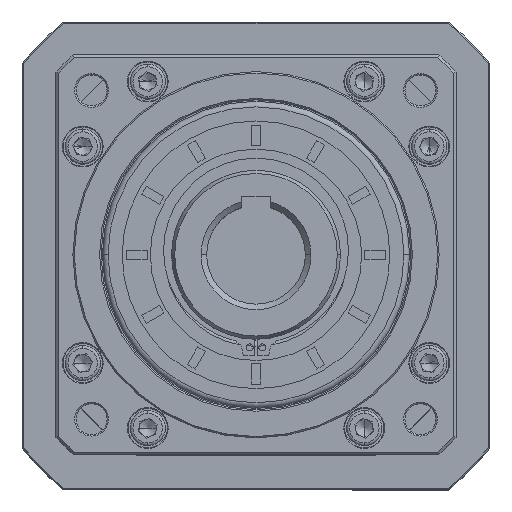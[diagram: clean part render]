
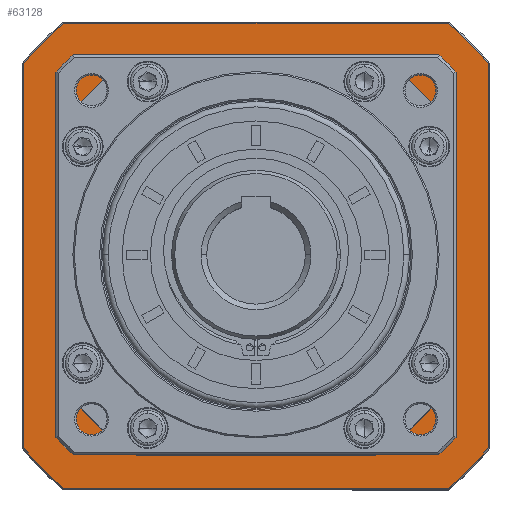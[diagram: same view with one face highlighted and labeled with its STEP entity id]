
A CAD part, top view. The second image highlights one B-rep face of the part: STEP entity #63128.
In plain terms, the highlighted planar face has unit normal (0, 0, 1).
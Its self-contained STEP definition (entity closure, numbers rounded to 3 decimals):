
#27 = CARTESIAN_POINT ( 'NONE',  ( 109.692, 76.653, 111.828 ) ) ;
#440 = EDGE_CURVE ( 'NONE', #15516, #45187, #11788, .T. ) ;
#2733 = EDGE_CURVE ( 'NONE', #18663, #77186, #50569, .T. ) ;
#6095 = CIRCLE ( 'NONE', #14025, 107. ) ;
#8090 = CARTESIAN_POINT ( 'NONE',  ( 109.692, 76.653, 111.828 ) ) ;
#8672 = DIRECTION ( 'NONE',  ( 1., 0., 0. ) ) ;
#9016 = DIRECTION ( 'NONE',  ( -1., 0., 0. ) ) ;
#10199 = VECTOR ( 'NONE', #99743, 1000. ) ;
#10563 = EDGE_CURVE ( 'NONE', #45187, #51152, #6095, .T. ) ;
#11576 = VECTOR ( 'NONE', #79521, 1000. ) ;
#11788 = LINE ( 'NONE', #88745, #84531 ) ;
#12332 = CARTESIAN_POINT ( 'NONE',  ( 109.692, 76.653, 111.828 ) ) ;
#12526 = AXIS2_PLACEMENT_3D ( 'NONE', #54204, #98380, #70638 ) ;
#12860 = VERTEX_POINT ( 'NONE', #45294 ) ;
#14025 = AXIS2_PLACEMENT_3D ( 'NONE', #12332, #74923, #73778 ) ;
#15516 = VERTEX_POINT ( 'NONE', #48514 ) ;
#15603 = ORIENTED_EDGE ( 'NONE', *, *, #29054, .F. ) ;
#15920 = FACE_OUTER_BOUND ( 'NONE', #93796, .T. ) ;
#15960 = DIRECTION ( 'NONE',  ( 0., 1., 0. ) ) ;
#17782 = ORIENTED_EDGE ( 'NONE', *, *, #44818, .F. ) ;
#17938 = CARTESIAN_POINT ( 'NONE',  ( 192.192, 76.653, 111.828 ) ) ;
#18333 = DIRECTION ( 'NONE',  ( 0., -1., 0. ) ) ;
#18382 = CARTESIAN_POINT ( 'NONE',  ( 151.57, 147.153, 111.828 ) ) ;
#18557 = CARTESIAN_POINT ( 'NONE',  ( 180.192, 118.53, 111.828 ) ) ;
#18663 = VERTEX_POINT ( 'NONE', #107964 ) ;
#22713 = CARTESIAN_POINT ( 'NONE',  ( 177.83, 159.153, 111.828 ) ) ;
#23760 = ORIENTED_EDGE ( 'NONE', *, *, #107310, .F. ) ;
#26359 = PLANE ( 'NONE',  #31899 ) ;
#27369 = CARTESIAN_POINT ( 'NONE',  ( 180.692, 147.153, 111.828 ) ) ;
#28157 = CIRCLE ( 'NONE', #64227, 107. ) ;
#29054 = EDGE_CURVE ( 'NONE', #101019, #113694, #88426, .T. ) ;
#29831 = CARTESIAN_POINT ( 'NONE',  ( 27.192, 144.79, 111.828 ) ) ;
#30671 = VERTEX_POINT ( 'NONE', #44216 ) ;
#31537 = AXIS2_PLACEMENT_3D ( 'NONE', #42404, #95561, #32603 ) ;
#31899 = AXIS2_PLACEMENT_3D ( 'NONE', #42809, #35387, #43987 ) ;
#32603 = DIRECTION ( 'NONE',  ( 1., 0., 0. ) ) ;
#32965 = CARTESIAN_POINT ( 'NONE',  ( 109.692, 159.153, 111.828 ) ) ;
#33233 = EDGE_CURVE ( 'NONE', #73126, #12860, #36969, .T. ) ;
#35048 = CIRCLE ( 'NONE', #106531, 107. ) ;
#35380 = LINE ( 'NONE', #32965, #11576 ) ;
#35387 = DIRECTION ( 'NONE',  ( 0., 0., -1. ) ) ;
#35821 = DIRECTION ( 'NONE',  ( 1., 0., 0. ) ) ;
#36019 = DIRECTION ( 'NONE',  ( 0., 0., -1. ) ) ;
#36969 = CIRCLE ( 'NONE', #87265, 82. ) ;
#37929 = DIRECTION ( 'NONE',  ( -1., 0., 0. ) ) ;
#38126 = ORIENTED_EDGE ( 'NONE', *, *, #102510, .F. ) ;
#39744 = CIRCLE ( 'NONE', #77344, 82. ) ;
#39826 = CARTESIAN_POINT ( 'NONE',  ( 39.192, 34.775, 111.828 ) ) ;
#40206 = CARTESIAN_POINT ( 'NONE',  ( 180.692, 6.153, 111.828 ) ) ;
#40538 = CARTESIAN_POINT ( 'NONE',  ( 41.554, -5.847, 111.828 ) ) ;
#40999 = CARTESIAN_POINT ( 'NONE',  ( 109.692, 76.653, 111.828 ) ) ;
#41868 = LINE ( 'NONE', #65811, #66964 ) ;
#42030 = CARTESIAN_POINT ( 'NONE',  ( 67.814, 147.153, 111.828 ) ) ;
#42290 = VERTEX_POINT ( 'NONE', #112498 ) ;
#42404 = CARTESIAN_POINT ( 'NONE',  ( 109.692, 76.653, 111.828 ) ) ;
#42809 = CARTESIAN_POINT ( 'NONE',  ( 109.692, 76.653, 111.828 ) ) ;
#43987 = DIRECTION ( 'NONE',  ( -1., 0., 0. ) ) ;
#44216 = CARTESIAN_POINT ( 'NONE',  ( 177.83, -5.847, 111.828 ) ) ;
#44818 = EDGE_CURVE ( 'NONE', #77186, #30671, #28157, .T. ) ;
#45187 = VERTEX_POINT ( 'NONE', #29831 ) ;
#45294 = CARTESIAN_POINT ( 'NONE',  ( 39.192, 118.53, 111.828 ) ) ;
#47043 = CARTESIAN_POINT ( 'NONE',  ( 192.192, 8.515, 111.828 ) ) ;
#48242 = ORIENTED_EDGE ( 'NONE', *, *, #72829, .F. ) ;
#48514 = CARTESIAN_POINT ( 'NONE',  ( 27.192, 8.515, 111.828 ) ) ;
#49441 = AXIS2_PLACEMENT_3D ( 'NONE', #40999, #76593, #49971 ) ;
#49798 = ORIENTED_EDGE ( 'NONE', *, *, #440, .F. ) ;
#49971 = DIRECTION ( 'NONE',  ( -1., 0., 0. ) ) ;
#50554 = ORIENTED_EDGE ( 'NONE', *, *, #2733, .F. ) ;
#50569 = LINE ( 'NONE', #17938, #85598 ) ;
#51152 = VERTEX_POINT ( 'NONE', #71561 ) ;
#52604 = EDGE_CURVE ( 'NONE', #51152, #114512, #35380, .T. ) ;
#53953 = ORIENTED_EDGE ( 'NONE', *, *, #52604, .F. ) ;
#54204 = CARTESIAN_POINT ( 'NONE',  ( 109.692, 76.653, 111.828 ) ) ;
#55308 = CARTESIAN_POINT ( 'NONE',  ( 67.814, 6.153, 111.828 ) ) ;
#56486 = CIRCLE ( 'NONE', #49441, 107. ) ;
#59310 = CIRCLE ( 'NONE', #31537, 82. ) ;
#59467 = VERTEX_POINT ( 'NONE', #107722 ) ;
#59707 = ORIENTED_EDGE ( 'NONE', *, *, #77932, .F. ) ;
#61053 = ORIENTED_EDGE ( 'NONE', *, *, #33233, .F. ) ;
#63128 = ADVANCED_FACE ( 'NONE', ( #15920, #99883 ), #26359, .F. ) ;
#63746 = EDGE_CURVE ( 'NONE', #59467, #101019, #71809, .T. ) ;
#64227 = AXIS2_PLACEMENT_3D ( 'NONE', #27, #36019, #9016 ) ;
#65568 = LINE ( 'NONE', #105631, #88078 ) ;
#65811 = CARTESIAN_POINT ( 'NONE',  ( 39.192, 5.653, 111.828 ) ) ;
#66964 = VECTOR ( 'NONE', #102549, 1000. ) ;
#70471 = DIRECTION ( 'NONE',  ( -1., 0., 0. ) ) ;
#70492 = CARTESIAN_POINT ( 'NONE',  ( 109.692, 76.653, 111.828 ) ) ;
#70638 = DIRECTION ( 'NONE',  ( 0., -1., 0. ) ) ;
#71228 = ORIENTED_EDGE ( 'NONE', *, *, #75263, .F. ) ;
#71561 = CARTESIAN_POINT ( 'NONE',  ( 41.554, 159.153, 111.828 ) ) ;
#71653 = ORIENTED_EDGE ( 'NONE', *, *, #63746, .F. ) ;
#71809 = LINE ( 'NONE', #91160, #10199 ) ;
#72010 = DIRECTION ( 'NONE',  ( 0., 0., -1. ) ) ;
#72829 = EDGE_CURVE ( 'NONE', #77909, #105321, #39744, .T. ) ;
#73113 = EDGE_CURVE ( 'NONE', #42290, #59467, #59310, .T. ) ;
#73126 = VERTEX_POINT ( 'NONE', #42030 ) ;
#73778 = DIRECTION ( 'NONE',  ( -1., 0., 0. ) ) ;
#74923 = DIRECTION ( 'NONE',  ( 0., 0., -1. ) ) ;
#75263 = EDGE_CURVE ( 'NONE', #12860, #77909, #41868, .T. ) ;
#76593 = DIRECTION ( 'NONE',  ( 0., 0., -1. ) ) ;
#77186 = VERTEX_POINT ( 'NONE', #47043 ) ;
#77344 = AXIS2_PLACEMENT_3D ( 'NONE', #8090, #97625, #35821 ) ;
#77909 = VERTEX_POINT ( 'NONE', #39826 ) ;
#77932 = EDGE_CURVE ( 'NONE', #105321, #42290, #99387, .T. ) ;
#79521 = DIRECTION ( 'NONE',  ( 1., 0., 0. ) ) ;
#79893 = ORIENTED_EDGE ( 'NONE', *, *, #87695, .F. ) ;
#80274 = DIRECTION ( 'NONE',  ( -1., 0., 0. ) ) ;
#84531 = VECTOR ( 'NONE', #15960, 1000. ) ;
#85555 = ORIENTED_EDGE ( 'NONE', *, *, #87425, .F. ) ;
#85598 = VECTOR ( 'NONE', #18333, 1000. ) ;
#87265 = AXIS2_PLACEMENT_3D ( 'NONE', #106825, #88517, #8672 ) ;
#87425 = EDGE_CURVE ( 'NONE', #113694, #73126, #106906, .T. ) ;
#87695 = EDGE_CURVE ( 'NONE', #103335, #15516, #56486, .T. ) ;
#88078 = VECTOR ( 'NONE', #70471, 1000. ) ;
#88426 = CIRCLE ( 'NONE', #12526, 82. ) ;
#88517 = DIRECTION ( 'NONE',  ( 0., 0., 1. ) ) ;
#88745 = CARTESIAN_POINT ( 'NONE',  ( 27.192, 76.653, 111.828 ) ) ;
#91160 = CARTESIAN_POINT ( 'NONE',  ( 180.192, 5.653, 111.828 ) ) ;
#92618 = ORIENTED_EDGE ( 'NONE', *, *, #73113, .F. ) ;
#92662 = DIRECTION ( 'NONE',  ( 1., 0., 0. ) ) ;
#93796 = EDGE_LOOP ( 'NONE', ( #23760, #17782, #50554, #38126, #53953, #96117, #49798, #79893 ) ) ;
#95561 = DIRECTION ( 'NONE',  ( 0., 0., 1. ) ) ;
#96117 = ORIENTED_EDGE ( 'NONE', *, *, #10563, .F. ) ;
#97625 = DIRECTION ( 'NONE',  ( 0., 0., 1. ) ) ;
#98380 = DIRECTION ( 'NONE',  ( 0., 0., 1. ) ) ;
#99387 = LINE ( 'NONE', #40206, #113421 ) ;
#99743 = DIRECTION ( 'NONE',  ( 0., 1., 0. ) ) ;
#99883 = FACE_BOUND ( 'NONE', #104599, .T. ) ;
#101019 = VERTEX_POINT ( 'NONE', #18557 ) ;
#102510 = EDGE_CURVE ( 'NONE', #114512, #18663, #35048, .T. ) ;
#102549 = DIRECTION ( 'NONE',  ( 0., -1., 0. ) ) ;
#103335 = VERTEX_POINT ( 'NONE', #40538 ) ;
#104103 = VECTOR ( 'NONE', #37929, 1000. ) ;
#104599 = EDGE_LOOP ( 'NONE', ( #15603, #71653, #92618, #59707, #48242, #71228, #61053, #85555 ) ) ;
#105321 = VERTEX_POINT ( 'NONE', #55308 ) ;
#105631 = CARTESIAN_POINT ( 'NONE',  ( 109.692, -5.847, 111.828 ) ) ;
#106531 = AXIS2_PLACEMENT_3D ( 'NONE', #70492, #72010, #80274 ) ;
#106825 = CARTESIAN_POINT ( 'NONE',  ( 109.692, 76.653, 111.828 ) ) ;
#106906 = LINE ( 'NONE', #27369, #104103 ) ;
#107310 = EDGE_CURVE ( 'NONE', #30671, #103335, #65568, .T. ) ;
#107722 = CARTESIAN_POINT ( 'NONE',  ( 180.192, 34.775, 111.828 ) ) ;
#107964 = CARTESIAN_POINT ( 'NONE',  ( 192.192, 144.79, 111.828 ) ) ;
#112498 = CARTESIAN_POINT ( 'NONE',  ( 151.57, 6.153, 111.828 ) ) ;
#113421 = VECTOR ( 'NONE', #92662, 1000. ) ;
#113694 = VERTEX_POINT ( 'NONE', #18382 ) ;
#114512 = VERTEX_POINT ( 'NONE', #22713 ) ;
